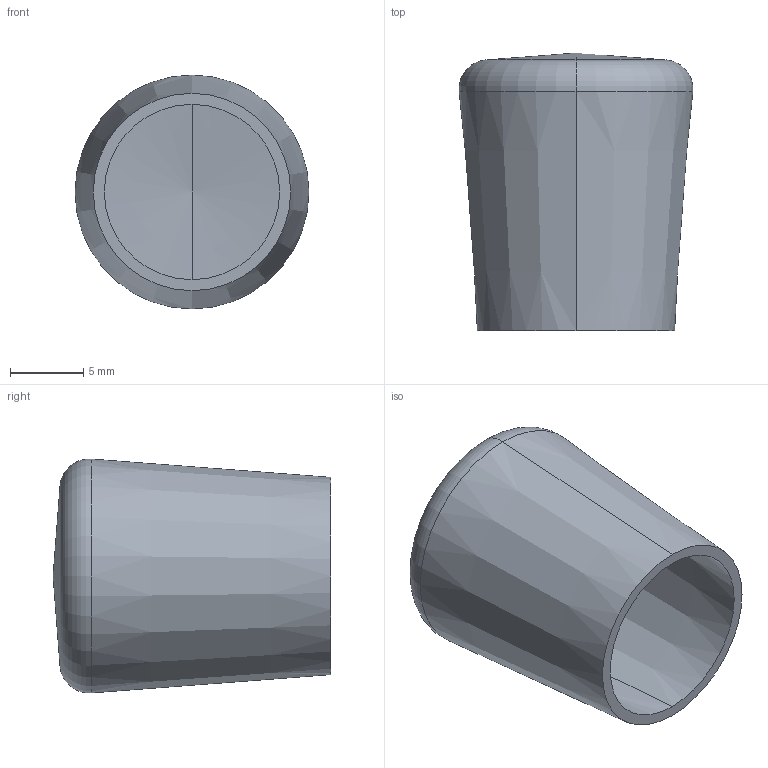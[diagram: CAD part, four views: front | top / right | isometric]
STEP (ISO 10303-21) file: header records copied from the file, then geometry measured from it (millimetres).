
FILE_DESCRIPTION (( 'STEP AP203' ), '1' );
FILE_NAME ('084.711.005.STEP', '2011-09-14T08:52:27', ( 'Paolo' ), ( '' ), 'SwSTEP 2.0', 'SolidWorks 2011', '' );
FILE_SCHEMA (( 'CONFIG_CONTROL_DESIGN' ));
Length unit declared in the file: millimetre
Products named in the file (1): 084.711.005
Bounding box: 16 x 19 x 16 mm (x, y, z)
Volume: 717.6 mm3; surface area: 1944.8 mm2
Topology: 1 solids, 1 shells, 13 faces, 28 edges, 14 vertices
Faces by surface type: cone 8, torus 4, plane 1
Entity records: 403 total; most frequent: DIRECTION 68, CARTESIAN_POINT 52, ORIENTED_EDGE 48, AXIS2_PLACEMENT_3D 30, EDGE_CURVE 24, CIRCLE 16, VERTEX_POINT 14, EDGE_LOOP 14
